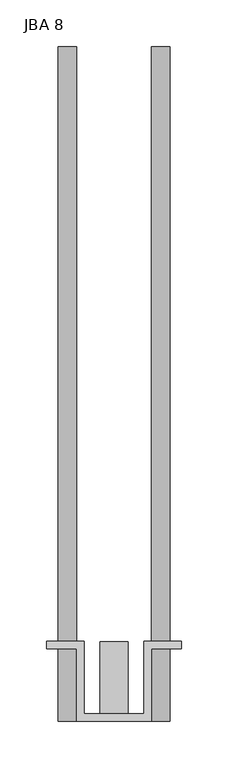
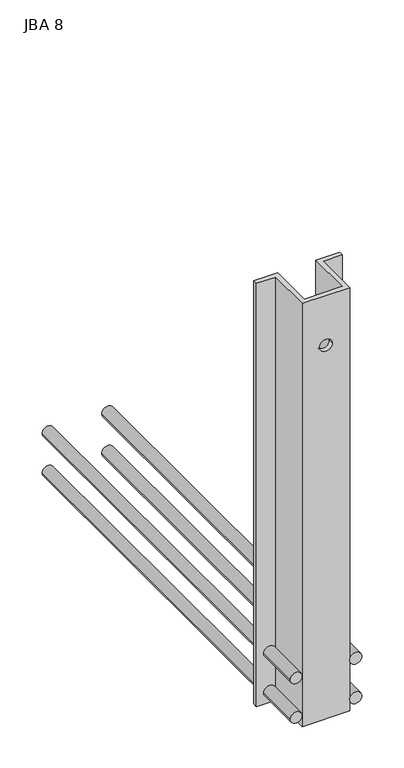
"""IFC4 building model written with IfcOpenShell, lengths in millimetres: fastener geometry, JBA JORDAHL® support corbels_1 : JBA 8."""

from ifc_helpers import new_model, si_unit, point, frame, frame_2d, origin, place, context, project, spatial, polyline, circle_curve, trimmed, segment, composite_curve, outline, extrude, source, transform, mapped, element, save
from ifc_brep_helpers import plane_surface, revolved_surface, advanced_brep


def jba_8_3b5d41c7(model_context):
    return source(origin(), model_context, "Body", "SolidModel", [
        extrude(outline(composite_curve([segment(trimmed(circle_curve(frame_2d((-35.0, -50.0)), 10.0), [point((-35.0, -60.0))], [point((-35.0, -40.0))], False, "CARTESIAN"), True, "CONTINUOUS"), segment(trimmed(circle_curve(frame_2d((-35.0, -50.0)), 10.0), [point((-35.0, -40.0))], [point((-35.0, -60.0))], False, "CARTESIAN"), True, "CONTINUOUS")], self_intersect=False)), frame((0.0, 0.0, 0.0), z_axis=(0.0, 1.0, 0.0), x_axis=(0.0, 0.0, 1.0)), (0.0, 0.0, 1.0), 720.0),
        extrude(outline(composite_curve([segment(trimmed(circle_curve(frame_2d((-35.0, 50.0)), 10.0), [point((-35.0, 40.0))], [point((-35.0, 60.0))], False, "CARTESIAN"), True, "CONTINUOUS"), segment(trimmed(circle_curve(frame_2d((-35.0, 50.0)), 10.0), [point((-35.0, 60.0))], [point((-35.0, 40.0))], False, "CARTESIAN"), True, "CONTINUOUS")], self_intersect=False)), frame((0.0, 0.0, 0.0), z_axis=(0.0, 1.0, 0.0), x_axis=(0.0, 0.0, 1.0)), (0.0, 0.0, 1.0), 720.0),
        extrude(outline(composite_curve([segment(trimmed(circle_curve(frame_2d((-105.0, -50.0)), 10.0), [point((-105.0, -60.0))], [point((-105.0, -40.0))], False, "CARTESIAN"), True, "CONTINUOUS"), segment(trimmed(circle_curve(frame_2d((-105.0, -50.0)), 10.0), [point((-105.0, -40.0))], [point((-105.0, -60.0))], False, "CARTESIAN"), True, "CONTINUOUS")], self_intersect=False)), frame((0.0, 0.0, 0.0), z_axis=(0.0, 1.0, 0.0), x_axis=(0.0, 0.0, 1.0)), (0.0, 0.0, 1.0), 720.0),
        extrude(outline(composite_curve([segment(trimmed(circle_curve(frame_2d((-105.0, 50.0)), 10.0), [point((-105.0, 40.0))], [point((-105.0, 60.0))], False, "CARTESIAN"), True, "CONTINUOUS"), segment(trimmed(circle_curve(frame_2d((-105.0, 50.0)), 10.0), [point((-105.0, 60.0))], [point((-105.0, 40.0))], False, "CARTESIAN"), True, "CONTINUOUS")], self_intersect=False)), frame((0.0, 0.0, 0.0), z_axis=(0.0, 1.0, 0.0), x_axis=(0.0, 0.0, 1.0)), (0.0, 0.0, 1.0), 720.0),
        advanced_brep(
        [(-72.0, 77.0, 625.0), (-40.0, 77.0, 625.0), (-40.0, 0.0, 625.0), (40.0, 0.0, 625.0), (40.0, 77.0, 625.0), (72.0, 77.0, 625.0), (72.0, 85.0, 625.0), (32.0, 85.0, 625.0), (32.0, 8.0, 625.0), (-32.0, 8.0, 625.0), (-32.0, 85.0, 625.0), (-72.0, 85.0, 625.0), (-72.0, 77.0, -125.0), (-72.0, 85.0, -125.0), (-32.0, 85.0, -125.0), (-32.0, 8.0, -125.0), (32.0, 8.0, -125.0), (32.0, 85.0, -125.0), (72.0, 85.0, -125.0), (72.0, 77.0, -125.0), (40.0, 77.0, -125.0), (40.0, 0.0, -125.0), (-40.0, 0.0, -125.0), (-40.0, 77.0, -125.0), (10.5, 0.0, 537.0), (-10.5, 0.0, 537.0), (-10.5, 8.0, 537.0), (10.5, 8.0, 537.0)],
        [
            (0, 1),
            (1, 2),
            (2, 3),
            (3, 4),
            (4, 5),
            (5, 6),
            (6, 7),
            (7, 8),
            (8, 9),
            (9, 10),
            (10, 11),
            (11, 0),
            (12, 13),
            (13, 14),
            (14, 15),
            (15, 16),
            (16, 17),
            (17, 18),
            (18, 19),
            (19, 20),
            (20, 21),
            (21, 22),
            (22, 23),
            (23, 12),
            (0, 12),
            (23, 1),
            (22, 2),
            (21, 3),
            (24, 25, circle_curve(frame((0.0, 0.0, 537.0), z_axis=(0.0, 1.0, 0.0), x_axis=(1.0, 0.0, 0.0)), 10.5)),
            (25, 24, circle_curve(frame((0.0, 0.0, 537.0), z_axis=(0.0, 1.0, 0.0), x_axis=(1.0, 0.0, 0.0)), 10.5)),
            (20, 4),
            (19, 5),
            (18, 6),
            (17, 7),
            (16, 8),
            (15, 9),
            (26, 27, circle_curve(frame((0.0, 8.0, 537.0), z_axis=(0.0, -1.0, 0.0), x_axis=(1.0, 0.0, 0.0)), 10.5)),
            (27, 26, circle_curve(frame((0.0, 8.0, 537.0), z_axis=(0.0, -1.0, 0.0), x_axis=(1.0, 0.0, 0.0)), 10.5)),
            (14, 10),
            (13, 11),
            (24, 27),
            (26, 25),
        ],
        [
            plane_surface(frame((0.0, 85.0, 625.0), z_axis=(0.0, 0.0, 1.0), x_axis=(0.0, -1.0, 0.0))),
            plane_surface(frame((0.0, 85.0, -125.0), z_axis=(0.0, 0.0, -1.0), x_axis=(0.0, -1.0, 0.0))),
            plane_surface(frame((-72.0, 77.0, 625.0), z_axis=(0.0, -1.0, 0.0), x_axis=(0.0, 0.0, -1.0))),
            plane_surface(frame((-40.0, 77.0, 625.0), z_axis=(-1.0, 0.0, 0.0), x_axis=(0.0, 0.0, -1.0))),
            plane_surface(frame((-40.0, 0.0, 625.0), z_axis=(0.0, -1.0, 0.0), x_axis=(0.0, 0.0, -1.0))),
            plane_surface(frame((40.0, 0.0, 625.0), z_axis=(1.0, 0.0, 0.0), x_axis=(0.0, 0.0, -1.0))),
            plane_surface(frame((40.0, 77.0, 625.0), z_axis=(0.0, -1.0, 0.0), x_axis=(0.0, 0.0, -1.0))),
            plane_surface(frame((72.0, 77.0, 625.0), z_axis=(1.0, 0.0, 0.0), x_axis=(0.0, 0.0, -1.0))),
            plane_surface(frame((72.0, 85.0, 625.0), z_axis=(0.0, 1.0, 0.0), x_axis=(0.0, 0.0, -1.0))),
            plane_surface(frame((32.0, 85.0, 625.0), z_axis=(-1.0, 0.0, 0.0), x_axis=(0.0, 0.0, -1.0))),
            plane_surface(frame((32.0, 8.0, 625.0), z_axis=(0.0, 1.0, 0.0), x_axis=(0.0, 0.0, -1.0))),
            plane_surface(frame((-32.0, 8.0, 625.0), z_axis=(1.0, 0.0, 0.0), x_axis=(0.0, 0.0, -1.0))),
            plane_surface(frame((-32.0, 85.0, 625.0), z_axis=(0.0, 1.0, 0.0), x_axis=(0.0, 0.0, -1.0))),
            plane_surface(frame((-72.0, 85.0, 625.0), z_axis=(-1.0, 0.0, 0.0), x_axis=(0.0, 0.0, -1.0))),
            revolved_surface(polyline([(10.5, 0.0, 537.0), (10.5, 8.0, 537.0)]), (0.0, 8.0, 537.0), (0.0, -1.0, 0.0)),
        ],
        [
            (0, [[1, 2, 3, 4, 5, 6, 7, 8, 9, 10, 11, 12]]),
            (1, [[13, 14, 15, 16, 17, 18, 19, 20, 21, 22, 23, 24]]),
            (2, [[-1, 25, -24, 26]]),
            (3, [[-2, -26, -23, 27]]),
            (4, [[-3, -27, -22, 28], [29, 30]]),
            (5, [[-4, -28, -21, 31]]),
            (6, [[-5, -31, -20, 32]]),
            (7, [[-6, -32, -19, 33]]),
            (8, [[-7, -33, -18, 34]]),
            (9, [[-8, -34, -17, 35]]),
            (10, [[-9, -35, -16, 36], [37, 38]]),
            (11, [[-10, -36, -15, 39]]),
            (12, [[-11, -39, -14, 40]]),
            (13, [[-12, -40, -13, -25]]),
            (14, [[41, -37, 42, -29]]),
            (14, [[-41, -30, -42, -38]]),
        ],
    ),
        extrude(outline(composite_curve([segment(trimmed(circle_curve(frame_2d((50.0, 0.0)), 15.0), [point((50.0, -15.0))], [point((50.0, 15.0))], False, "CARTESIAN"), True, "CONTINUOUS"), segment(trimmed(circle_curve(frame_2d((50.0, 0.0)), 15.0), [point((50.0, 15.0))], [point((50.0, -15.0))], False, "CARTESIAN"), True, "CONTINUOUS")], self_intersect=False)), frame((0.0, 8.0, 0.0), z_axis=(0.0, 1.0, 0.0), x_axis=(0.0, 0.0, 1.0)), (0.0, 0.0, 1.0), 77.0),
    ])


if __name__ == "__main__":
    model = new_model("IFC4")
    model_context = context("Model", 3, world=origin())
    ifc_project = project(units=[si_unit("LENGTHUNIT", "METRE", prefix="MILLI")], contexts=[model_context])
    site = spatial("IfcSite", under=ifc_project)
    building = spatial("IfcBuilding", under=site)
    placement = place(None, origin())
    jba_8_shape = jba_8_3b5d41c7(model_context)
    element("IfcFastener", 1, ObjectType="JBA JORDAHL® support corbels_1 : JBA 8", at=placement, inside=building, context=model_context, shape_type="MappedRepresentation", body=[
        mapped(jba_8_shape, transform((0.0, 0.0, 0.0), x_axis=(1.0, 0.0, 0.0), y_axis=(0.0, 1.0, 0.0), z_axis=(0.0, 0.0, 1.0))),
    ])
    save(model, "model.ifc")
